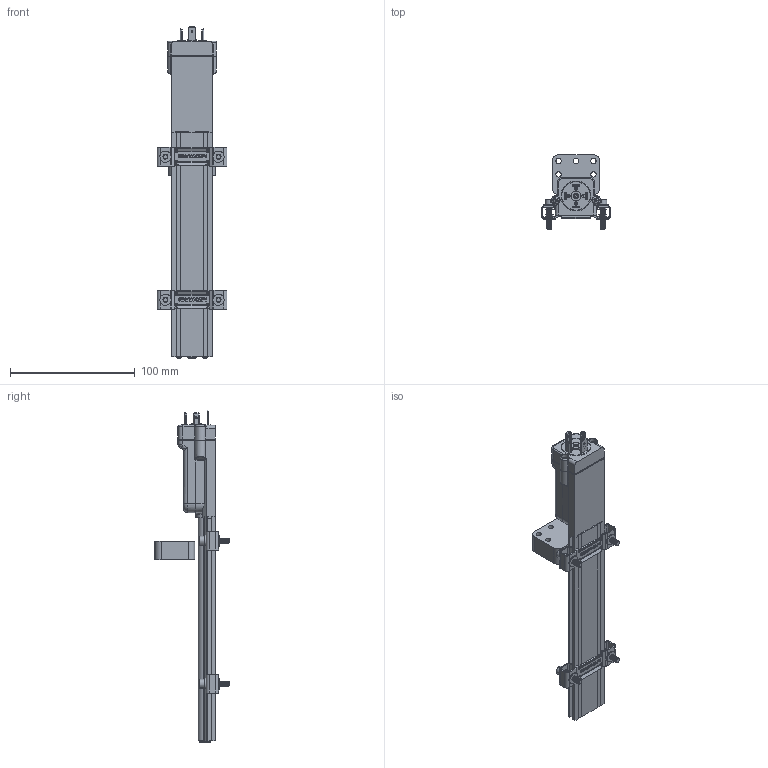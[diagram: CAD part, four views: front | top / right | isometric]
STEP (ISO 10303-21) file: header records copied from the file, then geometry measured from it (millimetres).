
FILE_DESCRIPTION (( 'STEP AP203' ), '1' );
FILE_NAME ('WPG-A-0100.STEP', '2018-12-17T13:06:05', ( '' ), ( '' ), 'SwSTEP 2.0', 'SolidWorks 2019', '' );
FILE_SCHEMA (( 'CONFIG_CONTROL_DESIGN' ));
Length unit declared in the file: millimetre
Products named in the file (18): CTT011x; CUS007x_Revisione 2; PTES153x; STA172x_Revisione 1; RON004x; GUA134x_Revisione 1; INS004x; MIM866x_Tapping screw DIN 7049-ST2.9x16-F-H-S; CTT010x; MIM500x_DIN 6798-J4.3; TAP022x; MIM886x_ISO 4762 M4 x 20 --- 20S; GUA139x_Revisione 1; magnetex; TAP021x; TES149x_Revisione 1; WPG-A-0100; CUS489x
Assembly tree (35 placements, depth 3):
  WPG-A-0100
    CUS489x
    GUA134x_Revisione 1
    CUS007x_Revisione 2
    TAP022x  x2
    MIM866x_Tapping screw DIN 7049-ST2.9x16-F-H-S  x2
    PTES153x
      TES149x_Revisione 1
      INS004x
      CTT010x  x3
      GUA139x_Revisione 1
      CTT011x
    TAP021x
    magnetex
    STA172x_Revisione 1  x2
    RON004x  x8
    MIM500x_DIN 6798-J4.3  x4
    MIM886x_ISO 4762 M4 x 20 --- 20S  x4
Bounding box: 56 x 59.5 x 266 mm (x, y, z)
Volume: 123808.1 mm3; surface area: 56654.8 mm2
Topology: 34 solids, 34 shells, 2331 faces, 5846 edges, 3579 vertices
Faces by surface type: plane 879, cylinder 603, cone 588, bspline 231, torus 26, sphere 4
Entity records: 39700 total; most frequent: CARTESIAN_POINT 11179, ORIENTED_EDGE 5500, DIRECTION 5340, EDGE_CURVE 2750, AXIS2_PLACEMENT_3D 1837, VERTEX_POINT 1716, VECTOR 1666, LINE 1666
